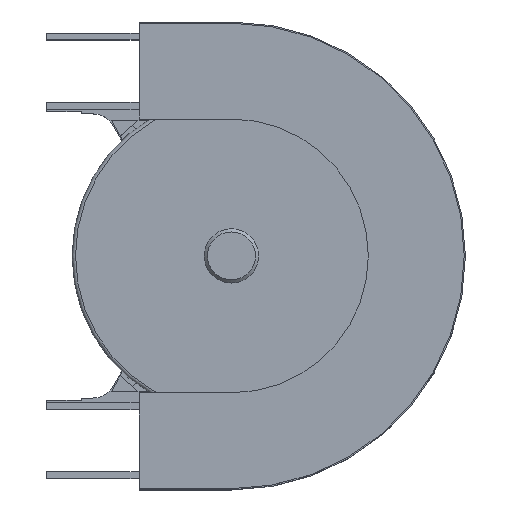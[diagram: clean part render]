
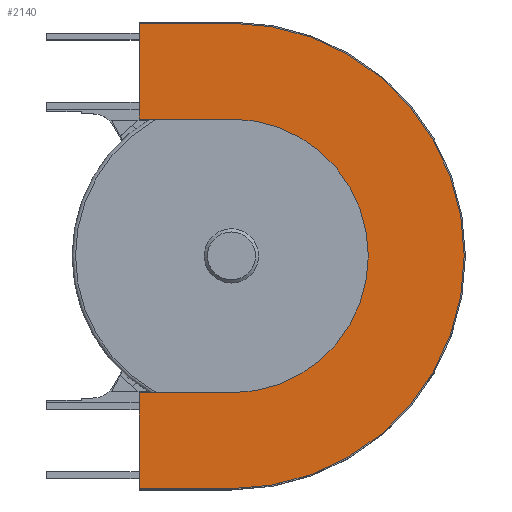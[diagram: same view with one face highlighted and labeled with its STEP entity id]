
A CAD part, top view. The second image highlights one B-rep face of the part: STEP entity #2140.
In plain terms, the highlighted planar face has unit normal (0, 0, -1).
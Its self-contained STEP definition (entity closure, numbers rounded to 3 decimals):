
#103=CIRCLE('',#2318,118.5);
#104=CIRCLE('',#2320,201.5);
#239=FACE_OUTER_BOUND('',#372,.T.);
#372=EDGE_LOOP('',(#1874,#1875,#1876,#1877,#1878,#1879,#1880,#1881));
#595=LINE('',#3439,#846);
#597=LINE('',#3445,#848);
#604=LINE('',#3466,#855);
#609=LINE('',#3475,#860);
#610=LINE('',#3477,#861);
#611=LINE('',#3478,#862);
#846=VECTOR('',#2832,10.);
#848=VECTOR('',#2836,10.);
#855=VECTOR('',#2857,10.);
#860=VECTOR('',#2866,10.);
#861=VECTOR('',#2869,10.);
#862=VECTOR('',#2870,10.);
#1044=VERTEX_POINT('',#3433);
#1046=VERTEX_POINT('',#3437);
#1047=VERTEX_POINT('',#3441);
#1049=VERTEX_POINT('',#3444);
#1052=VERTEX_POINT('',#3451);
#1053=VERTEX_POINT('',#3456);
#1055=VERTEX_POINT('',#3462);
#1058=VERTEX_POINT('',#3473);
#1319=EDGE_CURVE('',#1044,#1046,#595,.T.);
#1321=EDGE_CURVE('',#1047,#1049,#597,.T.);
#1326=EDGE_CURVE('',#1052,#1044,#103,.T.);
#1328=EDGE_CURVE('',#1053,#1047,#104,.T.);
#1332=EDGE_CURVE('',#1055,#1052,#604,.T.);
#1337=EDGE_CURVE('',#1058,#1053,#609,.T.);
#1338=EDGE_CURVE('',#1058,#1055,#610,.T.);
#1339=EDGE_CURVE('',#1046,#1049,#611,.T.);
#1874=ORIENTED_EDGE('',*,*,#1338,.T.);
#1875=ORIENTED_EDGE('',*,*,#1332,.T.);
#1876=ORIENTED_EDGE('',*,*,#1326,.T.);
#1877=ORIENTED_EDGE('',*,*,#1319,.T.);
#1878=ORIENTED_EDGE('',*,*,#1339,.T.);
#1879=ORIENTED_EDGE('',*,*,#1321,.F.);
#1880=ORIENTED_EDGE('',*,*,#1328,.F.);
#1881=ORIENTED_EDGE('',*,*,#1337,.F.);
#2019=PLANE('',#2325);
#2140=ADVANCED_FACE('',(#239),#2019,.F.);
#2318=AXIS2_PLACEMENT_3D('',#3454,#2844,#2845);
#2320=AXIS2_PLACEMENT_3D('',#3459,#2849,#2850);
#2325=AXIS2_PLACEMENT_3D('',#3476,#2867,#2868);
#2832=DIRECTION('',(-1.,0.,0.));
#2836=DIRECTION('',(-1.,0.,0.));
#2844=DIRECTION('center_axis',(0.,0.,1.));
#2845=DIRECTION('ref_axis',(0.,-1.,0.));
#2849=DIRECTION('center_axis',(0.,0.,1.));
#2850=DIRECTION('ref_axis',(0.,-1.,0.));
#2857=DIRECTION('',(1.,0.,0.));
#2866=DIRECTION('',(1.,0.,0.));
#2867=DIRECTION('center_axis',(0.,0.,1.));
#2868=DIRECTION('ref_axis',(0.,-1.,0.));
#2869=DIRECTION('',(0.,1.,0.));
#2870=DIRECTION('',(0.,1.,0.));
#3433=CARTESIAN_POINT('',(80.,278.5,42.5));
#3437=CARTESIAN_POINT('',(0.,278.5,42.5));
#3439=CARTESIAN_POINT('',(80.,278.5,42.5));
#3441=CARTESIAN_POINT('',(80.,361.5,42.5));
#3444=CARTESIAN_POINT('',(0.,361.5,42.5));
#3445=CARTESIAN_POINT('',(80.,361.5,42.5));
#3451=CARTESIAN_POINT('',(80.,41.5,42.5));
#3454=CARTESIAN_POINT('Origin',(80.,160.,42.5));
#3456=CARTESIAN_POINT('',(80.,-41.5,42.5));
#3459=CARTESIAN_POINT('Origin',(80.,160.,42.5));
#3462=CARTESIAN_POINT('',(0.,41.5,42.5));
#3466=CARTESIAN_POINT('',(0.,41.5,42.5));
#3473=CARTESIAN_POINT('',(0.,-41.5,42.5));
#3475=CARTESIAN_POINT('',(0.,-41.5,42.5));
#3476=CARTESIAN_POINT('Origin',(0.,41.5,42.5));
#3477=CARTESIAN_POINT('',(0.,-41.5,42.5));
#3478=CARTESIAN_POINT('',(0.,361.5,42.5));
